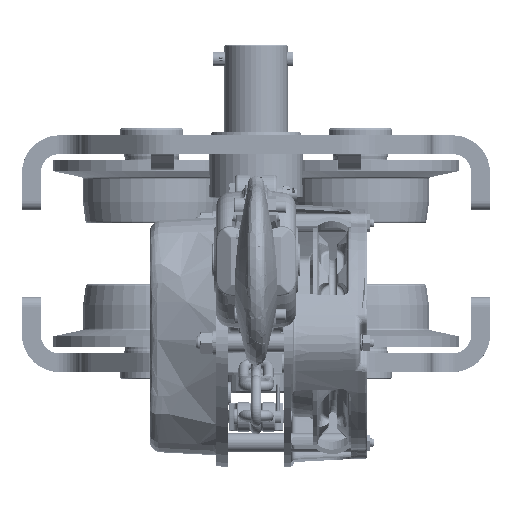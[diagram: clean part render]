
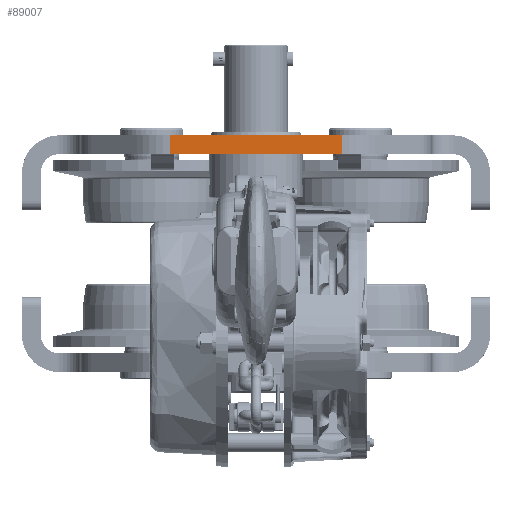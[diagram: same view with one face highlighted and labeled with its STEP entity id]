
A CAD part, front view. The second image highlights one B-rep face of the part: STEP entity #89007.
In plain terms, the highlighted planar face has unit normal (0, -1, 0).
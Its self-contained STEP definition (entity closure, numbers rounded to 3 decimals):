
#734 = AXIS2_PLACEMENT_3D ( 'NONE', #183286, #6085, #34877 ) ;
#6085 = DIRECTION ( 'NONE',  ( 0., 1., 0. ) ) ;
#6511 = CARTESIAN_POINT ( 'NONE',  ( -73.431, -59., 16. ) ) ;
#15827 = CARTESIAN_POINT ( 'NONE',  ( 73.431, -59., 16. ) ) ;
#20104 = VECTOR ( 'NONE', #32865, 1000. ) ;
#28275 = DIRECTION ( 'NONE',  ( 1., 0., 0. ) ) ;
#28982 = CARTESIAN_POINT ( 'NONE',  ( 73.431, -59., 16. ) ) ;
#32865 = DIRECTION ( 'NONE',  ( 0., 0., -1. ) ) ;
#34726 = ORIENTED_EDGE ( 'NONE', *, *, #180099, .T. ) ;
#34877 = DIRECTION ( 'NONE',  ( 0., 0., 1. ) ) ;
#35842 = VERTEX_POINT ( 'NONE', #49843 ) ;
#36204 = ORIENTED_EDGE ( 'NONE', *, *, #60362, .F. ) ;
#45364 = LINE ( 'NONE', #101879, #20104 ) ;
#49843 = CARTESIAN_POINT ( 'NONE',  ( 73.431, -59., 0. ) ) ;
#50399 = EDGE_LOOP ( 'NONE', ( #34726, #36204, #92753, #80938 ) ) ;
#55712 = LINE ( 'NONE', #146608, #157715 ) ;
#60362 = EDGE_CURVE ( 'NONE', #117510, #35842, #45364, .T. ) ;
#64788 = VERTEX_POINT ( 'NONE', #6511 ) ;
#80938 = ORIENTED_EDGE ( 'NONE', *, *, #149880, .T. ) ;
#89007 = ADVANCED_FACE ( 'NONE', ( #95206 ), #182335, .F. ) ;
#92753 = ORIENTED_EDGE ( 'NONE', *, *, #149344, .F. ) ;
#94480 = CARTESIAN_POINT ( 'NONE',  ( -73.431, -59., 0. ) ) ;
#95206 = FACE_OUTER_BOUND ( 'NONE', #50399, .T. ) ;
#101879 = CARTESIAN_POINT ( 'NONE',  ( 73.431, -59., 16. ) ) ;
#102473 = VECTOR ( 'NONE', #28275, 1000. ) ;
#103677 = LINE ( 'NONE', #28982, #130195 ) ;
#104650 = CARTESIAN_POINT ( 'NONE',  ( 73.431, -59., 0. ) ) ;
#117510 = VERTEX_POINT ( 'NONE', #15827 ) ;
#130195 = VECTOR ( 'NONE', #141445, 1000. ) ;
#141445 = DIRECTION ( 'NONE',  ( 1., 0., 0. ) ) ;
#143801 = DIRECTION ( 'NONE',  ( 0., 0., -1. ) ) ;
#144249 = LINE ( 'NONE', #104650, #102473 ) ;
#146604 = VERTEX_POINT ( 'NONE', #94480 ) ;
#146608 = CARTESIAN_POINT ( 'NONE',  ( -73.431, -59., 16. ) ) ;
#149344 = EDGE_CURVE ( 'NONE', #64788, #117510, #103677, .T. ) ;
#149880 = EDGE_CURVE ( 'NONE', #64788, #146604, #55712, .T. ) ;
#157715 = VECTOR ( 'NONE', #143801, 1000. ) ;
#180099 = EDGE_CURVE ( 'NONE', #146604, #35842, #144249, .T. ) ;
#182335 = PLANE ( 'NONE',  #734 ) ;
#183286 = CARTESIAN_POINT ( 'NONE',  ( 73.431, -59., 16. ) ) ;
